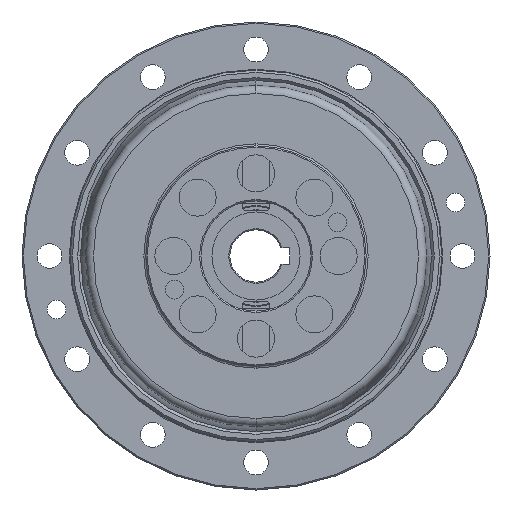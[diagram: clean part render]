
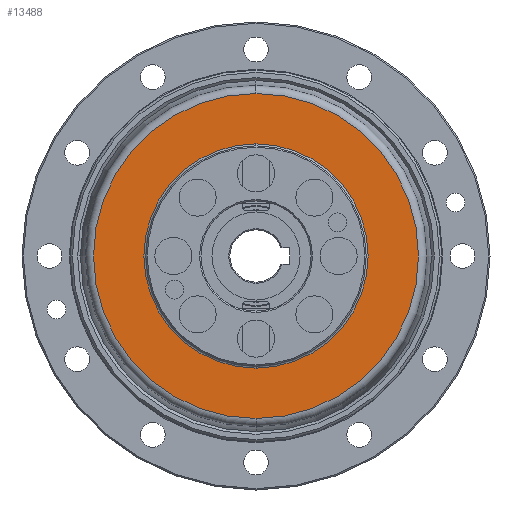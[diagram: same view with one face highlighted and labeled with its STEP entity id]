
A CAD part, left-side view. The second image highlights one B-rep face of the part: STEP entity #13488.
In plain terms, the highlighted planar face has unit normal (-1, 0, 0).
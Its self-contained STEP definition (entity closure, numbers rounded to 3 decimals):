
#413 = ORIENTED_EDGE ( 'NONE', *, *, #6110, .F. ) ;
#573 = FACE_OUTER_BOUND ( 'NONE', #5672, .T. ) ;
#1076 = CARTESIAN_POINT ( 'NONE',  ( 4.375, 0., 0. ) ) ;
#1337 = VERTEX_POINT ( 'NONE', #1653 ) ;
#1380 = ORIENTED_EDGE ( 'NONE', *, *, #16534, .F. ) ;
#1653 = CARTESIAN_POINT ( 'NONE',  ( 4.375, 0., -59.025 ) ) ;
#1766 = CARTESIAN_POINT ( 'NONE',  ( 4.375, 59.025, 0. ) ) ;
#2248 = VERTEX_POINT ( 'NONE', #16769 ) ;
#2541 = CARTESIAN_POINT ( 'NONE',  ( 4.375, 0., -40.721 ) ) ;
#2620 = ORIENTED_EDGE ( 'NONE', *, *, #17220, .T. ) ;
#3170 = CIRCLE ( 'NONE', #19196, 59.025 ) ;
#4392 = VERTEX_POINT ( 'NONE', #8406 ) ;
#5394 = DIRECTION ( 'NONE',  ( 1., 0., 0. ) ) ;
#5672 = EDGE_LOOP ( 'NONE', ( #413, #1380 ) ) ;
#6110 = EDGE_CURVE ( 'NONE', #1337, #2248, #6528, .T. ) ;
#6279 = CIRCLE ( 'NONE', #16261, 40.721 ) ;
#6438 = DIRECTION ( 'NONE',  ( -1., 0., 0. ) ) ;
#6528 = CIRCLE ( 'NONE', #11860, 59.025 ) ;
#7245 = DIRECTION ( 'NONE',  ( 1., 0., 0. ) ) ;
#7267 = EDGE_LOOP ( 'NONE', ( #2620, #15059 ) ) ;
#7556 = CARTESIAN_POINT ( 'NONE',  ( 4.375, 0., 0. ) ) ;
#7922 = PLANE ( 'NONE',  #11548 ) ;
#8406 = CARTESIAN_POINT ( 'NONE',  ( 4.375, 0., 40.721 ) ) ;
#8786 = FACE_BOUND ( 'NONE', #7267, .T. ) ;
#9079 = DIRECTION ( 'NONE',  ( 0., 0., -1. ) ) ;
#10952 = DIRECTION ( 'NONE',  ( 0., 0., -1. ) ) ;
#11548 = AXIS2_PLACEMENT_3D ( 'NONE', #1766, #6438, #17109 ) ;
#11577 = CIRCLE ( 'NONE', #19712, 40.721 ) ;
#11637 = EDGE_CURVE ( 'NONE', #4392, #15275, #11577, .T. ) ;
#11860 = AXIS2_PLACEMENT_3D ( 'NONE', #1076, #13383, #10952 ) ;
#13383 = DIRECTION ( 'NONE',  ( 1., 0., 0. ) ) ;
#13488 = ADVANCED_FACE ( 'NONE', ( #8786, #573 ), #7922, .T. ) ;
#14552 = CARTESIAN_POINT ( 'NONE',  ( 4.375, 0., 0. ) ) ;
#15059 = ORIENTED_EDGE ( 'NONE', *, *, #11637, .T. ) ;
#15275 = VERTEX_POINT ( 'NONE', #2541 ) ;
#16072 = DIRECTION ( 'NONE',  ( 0., 0., -1. ) ) ;
#16261 = AXIS2_PLACEMENT_3D ( 'NONE', #7556, #18224, #9079 ) ;
#16394 = CARTESIAN_POINT ( 'NONE',  ( 4.375, 0., 0. ) ) ;
#16534 = EDGE_CURVE ( 'NONE', #2248, #1337, #3170, .T. ) ;
#16769 = CARTESIAN_POINT ( 'NONE',  ( 4.375, 0., 59.025 ) ) ;
#17109 = DIRECTION ( 'NONE',  ( 0., 0., 1. ) ) ;
#17220 = EDGE_CURVE ( 'NONE', #15275, #4392, #6279, .T. ) ;
#17925 = DIRECTION ( 'NONE',  ( 0., 0., -1. ) ) ;
#18224 = DIRECTION ( 'NONE',  ( 1., 0., 0. ) ) ;
#19196 = AXIS2_PLACEMENT_3D ( 'NONE', #14552, #5394, #16072 ) ;
#19712 = AXIS2_PLACEMENT_3D ( 'NONE', #16394, #7245, #17925 ) ;
